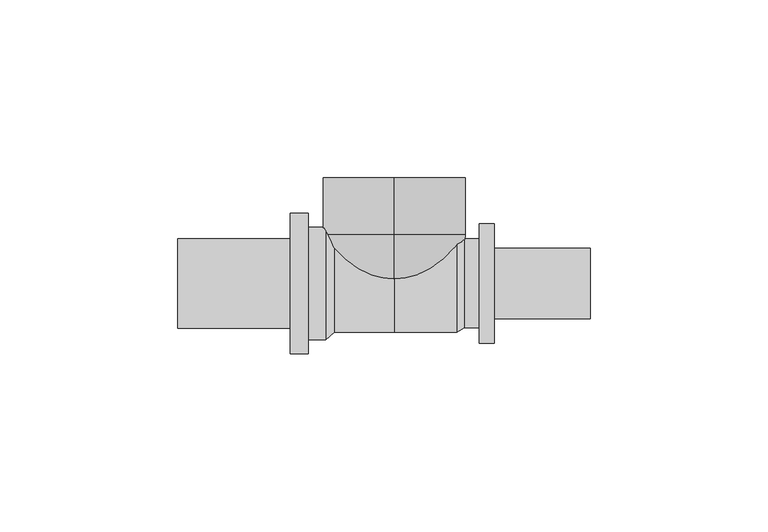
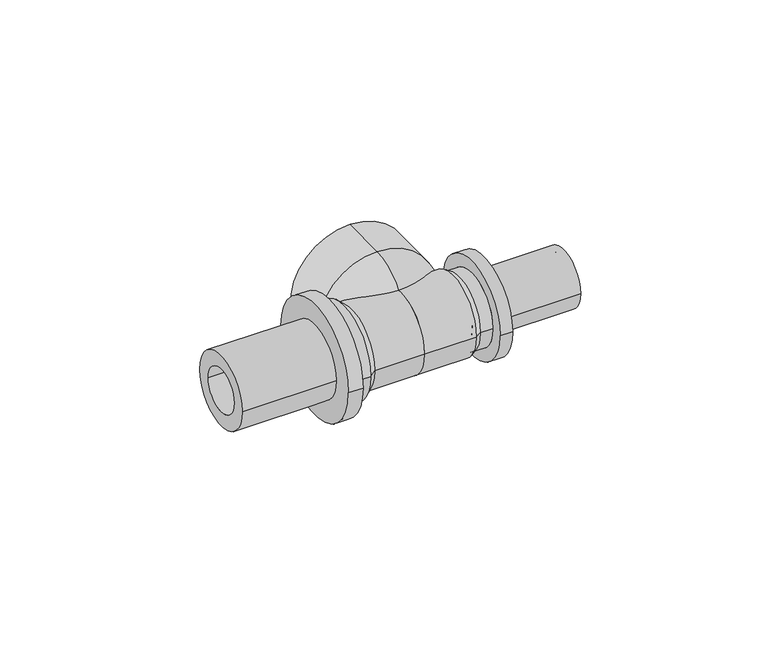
"""IFC4 building model written with IfcOpenShell, lengths in millimetres: pipe fitting geometry, REHAU_RAUTITAN_T-piece RX+, outlet with internal thread : REHAU_RAUTITAN_T-piece RX+, outlet with internal thread."""

from ifc_helpers import new_model, si_unit, point, frame, origin, place, context, project, spatial, polyline, circle_curve, ellipse_curve, trimmed, source, transform, mapped, element, save
from ifc_brep_helpers import plane_surface, cylinder_surface, revolved_surface, advanced_brep


def pipe_fitting_9d3ca083(model_context):
    return source(origin(), model_context, "Body", "AdvancedBrep", [
        advanced_brep(
        [(-29.16, 12.6, 0.0), (-29.16, -12.6, 0.0), (-60.82, -12.6, 0.0), (-60.82, 12.6, 0.0), (-24.21, 19.79, 0.0), (-24.21, -19.79, 0.0), (-29.16, -19.79, 0.0), (-29.16, 19.79, 0.0), (-19.26, 15.84, 0.0), (-19.26, -15.84, 0.0), (-24.21, -15.84, 0.0), (-24.21, 15.84, 0.0), (-16.785, 13.775, 0.0), (-16.785, -13.775, 0.0), (0.0, 13.775, 0.0), (0.0, -13.775, 0.0), (-16.785, 11.01, 0.0), (-16.785, -11.01, 0.0), (0.0, -11.01, 0.0), (0.0, 11.01, 0.0), (-19.26, 7.595, 0.0), (-19.26, -7.595, 0.0), (-60.82, 7.595, 0.0), (-60.82, -7.595, 0.0)],
        [
            (0, 1, circle_curve(frame((-29.16, 0.0, 0.0), z_axis=(-1.0, 0.0, 0.0), x_axis=(0.0, -1.0, 0.0)), 12.6)),
            (1, 2),
            (2, 3, circle_curve(frame((-60.82, 0.0, 0.0), z_axis=(1.0, 0.0, 0.0), x_axis=(0.0, -1.0, 0.0)), 12.6)),
            (3, 0),
            (4, 5, circle_curve(frame((-24.21, 0.0, 0.0), z_axis=(-1.0, 0.0, 0.0), x_axis=(0.0, -1.0, 0.0)), 19.79)),
            (5, 6),
            (6, 7, circle_curve(frame((-29.16, 0.0, 0.0), z_axis=(1.0, 0.0, 0.0), x_axis=(0.0, -1.0, 0.0)), 19.79)),
            (7, 4),
            (8, 9, circle_curve(frame((-19.26, 0.0, 0.0), z_axis=(-1.0, 0.0, 0.0), x_axis=(0.0, -1.0, 0.0)), 15.84)),
            (9, 10),
            (10, 11, circle_curve(frame((-24.21, 0.0, 0.0), z_axis=(1.0, 0.0, 0.0), x_axis=(0.0, -1.0, 0.0)), 15.84)),
            (11, 8),
            (12, 13, circle_curve(frame((-16.785, 0.0, 0.0), z_axis=(-1.0, 0.0, 0.0), x_axis=(0.0, -1.0, 0.0)), 13.775)),
            (13, 9),
            (8, 12),
            (14, 15, circle_curve(frame((0.0, 0.0, 0.0), z_axis=(-1.0, 0.0, 0.0), x_axis=(0.0, -1.0, 0.0)), 13.775)),
            (15, 13),
            (12, 14),
            (16, 17, circle_curve(frame((-16.785, 0.0, 0.0), z_axis=(-1.0, 0.0, 0.0), x_axis=(0.0, -1.0, 0.0)), 11.01)),
            (17, 18),
            (18, 19, circle_curve(frame((0.0, 0.0, 0.0), z_axis=(1.0, 0.0, 0.0), x_axis=(0.0, -1.0, 0.0)), 11.01)),
            (19, 16),
            (20, 21, circle_curve(frame((-19.26, 0.0, 0.0), z_axis=(-1.0, 0.0, 0.0), x_axis=(0.0, -1.0, 0.0)), 7.595)),
            (21, 17),
            (16, 20),
            (22, 23, circle_curve(frame((-60.82, 0.0, 0.0), z_axis=(-1.0, 0.0, 0.0), x_axis=(0.0, -1.0, 0.0)), 7.595)),
            (23, 21),
            (20, 22),
            (1, 0, circle_curve(frame((-29.16, 0.0, 0.0), z_axis=(-1.0, 0.0, 0.0), x_axis=(0.0, 1.0, 0.0)), 12.6)),
            (3, 2, circle_curve(frame((-60.82, 0.0, 0.0), z_axis=(1.0, 0.0, 0.0), x_axis=(0.0, 1.0, 0.0)), 12.6)),
            (6, 7, circle_curve(frame((-29.16, 0.0, 0.0), z_axis=(-1.0, 0.0, 0.0), x_axis=(0.0, 1.0, 0.0)), 19.79)),
            (5, 4, circle_curve(frame((-24.21, 0.0, 0.0), z_axis=(-1.0, 0.0, 0.0), x_axis=(0.0, 1.0, 0.0)), 19.79)),
            (10, 11, circle_curve(frame((-24.21, 0.0, 0.0), z_axis=(-1.0, 0.0, 0.0), x_axis=(0.0, 1.0, 0.0)), 15.84)),
            (9, 8, circle_curve(frame((-19.26, 0.0, 0.0), z_axis=(-1.0, 0.0, 0.0), x_axis=(0.0, 1.0, 0.0)), 15.84)),
            (13, 12, circle_curve(frame((-16.785, 0.0, 0.0), z_axis=(-1.0, 0.0, 0.0), x_axis=(0.0, 1.0, 0.0)), 13.775)),
            (15, 14, circle_curve(frame((0.0, 0.0, 0.0), z_axis=(-1.0, 0.0, 0.0), x_axis=(0.0, 1.0, 0.0)), 13.775)),
            (18, 19, circle_curve(frame((0.0, 0.0, 0.0), z_axis=(-1.0, 0.0, 0.0), x_axis=(0.0, 1.0, 0.0)), 11.01)),
            (17, 16, circle_curve(frame((-16.785, 0.0, 0.0), z_axis=(-1.0, 0.0, 0.0), x_axis=(0.0, 1.0, 0.0)), 11.01)),
            (21, 20, circle_curve(frame((-19.26, 0.0, 0.0), z_axis=(-1.0, 0.0, 0.0), x_axis=(0.0, 1.0, 0.0)), 7.595)),
            (23, 22, circle_curve(frame((-60.82, 0.0, 0.0), z_axis=(-1.0, 0.0, 0.0), x_axis=(0.0, 1.0, 0.0)), 7.595)),
        ],
        [
            cylinder_surface(frame((0.0, 0.0, 0.0), z_axis=(1.0, 0.0, 0.0), x_axis=(0.0, -1.0, 0.0)), 12.6),
            cylinder_surface(frame((0.0, 0.0, 0.0), z_axis=(1.0, 0.0, 0.0), x_axis=(0.0, -1.0, 0.0)), 19.79),
            cylinder_surface(frame((0.0, 0.0, 0.0), z_axis=(1.0, 0.0, 0.0), x_axis=(0.0, -1.0, 0.0)), 15.84),
            revolved_surface(polyline([(-19.26, -15.84, 0.0), (-16.785, -13.775, 0.0)]), (0.0, 0.0, 0.0), (1.0, 0.0, 0.0)),
            cylinder_surface(frame((0.0, 0.0, 0.0), z_axis=(1.0, 0.0, 0.0), x_axis=(0.0, -1.0, 0.0)), 13.775),
            revolved_surface(polyline([(0.0, -11.01, 0.0), (-16.785, -11.01, 0.0)]), (0.0, 0.0, 0.0), (1.0, 0.0, 0.0)),
            revolved_surface(polyline([(-16.785, -11.01, 0.0), (-19.26, -7.595, 0.0)]), (0.0, 0.0, 0.0), (1.0, 0.0, 0.0)),
            revolved_surface(polyline([(-19.26, -7.595, 0.0), (-60.82, -7.595, 0.0)]), (0.0, 0.0, 0.0), (1.0, 0.0, 0.0)),
            cylinder_surface(frame((0.0, 0.0, 0.0), z_axis=(1.0, 0.0, 0.0), x_axis=(0.0, 1.0, 0.0)), 12.6),
            plane_surface(frame((-29.16, 0.0, 0.0), z_axis=(-1.0, 0.0, 0.0), x_axis=(0.0, 1.0, 0.0))),
            cylinder_surface(frame((0.0, 0.0, 0.0), z_axis=(1.0, 0.0, 0.0), x_axis=(0.0, 1.0, 0.0)), 19.79),
            plane_surface(frame((-24.21, 0.0, 0.0), z_axis=(1.0, 0.0, 0.0), x_axis=(0.0, 1.0, 0.0))),
            cylinder_surface(frame((0.0, 0.0, 0.0), z_axis=(1.0, 0.0, 0.0), x_axis=(0.0, 1.0, 0.0)), 15.84),
            revolved_surface(polyline([(-19.26, 15.84, 0.0), (-16.785, 13.775, 0.0)]), (0.0, 0.0, 0.0), (1.0, 0.0, 0.0)),
            cylinder_surface(frame((0.0, 0.0, 0.0), z_axis=(1.0, 0.0, 0.0), x_axis=(0.0, 1.0, 0.0)), 13.775),
            plane_surface(frame((0.0, 0.0, 0.0), z_axis=(1.0, 0.0, 0.0), x_axis=(0.0, 1.0, 0.0))),
            revolved_surface(polyline([(0.0, 11.01, 0.0), (-16.785, 11.01, 0.0)]), (0.0, 0.0, 0.0), (1.0, 0.0, 0.0)),
            revolved_surface(polyline([(-16.785, 11.01, 0.0), (-19.26, 7.595, 0.0)]), (0.0, 0.0, 0.0), (1.0, 0.0, 0.0)),
            revolved_surface(polyline([(-19.26, 7.595, 0.0), (-60.82, 7.595, 0.0)]), (0.0, 0.0, 0.0), (1.0, 0.0, 0.0)),
            plane_surface(frame((-60.82, 0.0, 0.0), z_axis=(-1.0, 0.0, 0.0), x_axis=(0.0, 1.0, 0.0))),
        ],
        [
            (0, [[1, 2, 3, 4]]),
            (1, [[5, 6, 7, 8]]),
            (2, [[9, 10, 11, 12]]),
            (3, [[13, 14, -9, 15]]),
            (4, [[16, 17, -13, 18]]),
            (5, [[19, 20, 21, 22]]),
            (6, [[23, 24, -19, 25]]),
            (7, [[26, 27, -23, 28]]),
            (8, [[29, -4, 30, -2]]),
            (9, [[31, -7], [-29, -1]]),
            (10, [[32, -8, -31, -6]]),
            (11, [[-32, -5], [33, -11]]),
            (12, [[34, -12, -33, -10]]),
            (13, [[35, -15, -34, -14]]),
            (14, [[36, -18, -35, -17]]),
            (15, [[-36, -16], [37, -21]]),
            (16, [[38, -22, -37, -20]]),
            (17, [[39, -25, -38, -24]]),
            (18, [[40, -28, -39, -27]]),
            (19, [[-30, -3], [-40, -26]]),
        ],
    ),
        advanced_brep(
        [(19.74, 7.595, 0.0), (19.74, -7.595, 0.0), (55.14, -7.595, 0.0), (55.14, 7.595, 0.0), (17.64, 11.01, 0.0), (17.64, -11.01, 0.0), (0.0, 11.01, 0.0), (0.0, -11.01, 0.0), (17.64, 13.775, 0.0), (17.64, -13.775, 0.0), (0.0, -13.775, 0.0), (0.0, 13.775, 0.0), (19.74, 12.5, 0.0), (19.74, -12.5, 0.0), (23.94, 12.5, 0.0), (23.94, -12.5, 0.0), (28.14, 16.795, 0.0), (28.14, -16.795, 0.0), (23.94, -16.795, 0.0), (23.94, 16.795, 0.0), (55.14, 9.87, 0.0), (55.14, -9.87, 0.0), (28.14, -9.87, 0.0), (28.14, 9.87, 0.0)],
        [
            (0, 1, circle_curve(frame((19.74, 0.0, 0.0), z_axis=(-1.0, 0.0, 0.0), x_axis=(0.0, -1.0, 0.0)), 7.595)),
            (1, 2),
            (2, 3, circle_curve(frame((55.14, 0.0, 0.0), z_axis=(1.0, 0.0, 0.0), x_axis=(0.0, -1.0, 0.0)), 7.595)),
            (3, 0),
            (4, 5, circle_curve(frame((17.64, 0.0, 0.0), z_axis=(-1.0, 0.0, 0.0), x_axis=(0.0, -1.0, 0.0)), 11.01)),
            (5, 1),
            (0, 4),
            (6, 7, circle_curve(frame((0.0, 0.0, 0.0), z_axis=(-1.0, 0.0, 0.0), x_axis=(0.0, -1.0, 0.0)), 11.01)),
            (7, 5),
            (4, 6),
            (8, 9, circle_curve(frame((17.64, 0.0, 0.0), z_axis=(-1.0, 0.0, 0.0), x_axis=(0.0, -1.0, 0.0)), 13.775)),
            (9, 10),
            (10, 11, circle_curve(frame((0.0, 0.0, 0.0), z_axis=(1.0, 0.0, 0.0), x_axis=(0.0, -1.0, 0.0)), 13.775)),
            (11, 8),
            (12, 13, circle_curve(frame((19.74, 0.0, 0.0), z_axis=(-1.0, 0.0, 0.0), x_axis=(0.0, -1.0, 0.0)), 12.5)),
            (13, 9),
            (8, 12),
            (14, 15, circle_curve(frame((23.94, 0.0, 0.0), z_axis=(-1.0, 0.0, 0.0), x_axis=(0.0, -1.0, 0.0)), 12.5)),
            (15, 13),
            (12, 14),
            (16, 17, circle_curve(frame((28.14, 0.0, 0.0), z_axis=(-1.0, 0.0, 0.0), x_axis=(0.0, -1.0, 0.0)), 16.795)),
            (17, 18),
            (18, 19, circle_curve(frame((23.94, 0.0, 0.0), z_axis=(1.0, 0.0, 0.0), x_axis=(0.0, -1.0, 0.0)), 16.795)),
            (19, 16),
            (20, 21, circle_curve(frame((55.14, 0.0, 0.0), z_axis=(-1.0, 0.0, 0.0), x_axis=(0.0, -1.0, 0.0)), 9.87)),
            (21, 22),
            (22, 23, circle_curve(frame((28.14, 0.0, 0.0), z_axis=(1.0, 0.0, 0.0), x_axis=(0.0, -1.0, 0.0)), 9.87)),
            (23, 20),
            (20, 21, circle_curve(frame((55.14, 0.0, 0.0), z_axis=(1.0, 0.0, 0.0), x_axis=(0.0, 1.0, 0.0)), 9.87)),
            (2, 3, circle_curve(frame((55.14, 0.0, 0.0), z_axis=(-1.0, 0.0, 0.0), x_axis=(0.0, 1.0, 0.0)), 7.595)),
            (1, 0, circle_curve(frame((19.74, 0.0, 0.0), z_axis=(-1.0, 0.0, 0.0), x_axis=(0.0, 1.0, 0.0)), 7.595)),
            (5, 4, circle_curve(frame((17.64, 0.0, 0.0), z_axis=(-1.0, 0.0, 0.0), x_axis=(0.0, 1.0, 0.0)), 11.01)),
            (7, 6, circle_curve(frame((0.0, 0.0, 0.0), z_axis=(-1.0, 0.0, 0.0), x_axis=(0.0, 1.0, 0.0)), 11.01)),
            (10, 11, circle_curve(frame((0.0, 0.0, 0.0), z_axis=(-1.0, 0.0, 0.0), x_axis=(0.0, 1.0, 0.0)), 13.775)),
            (9, 8, circle_curve(frame((17.64, 0.0, 0.0), z_axis=(-1.0, 0.0, 0.0), x_axis=(0.0, 1.0, 0.0)), 13.775)),
            (13, 12, circle_curve(frame((19.74, 0.0, 0.0), z_axis=(-1.0, 0.0, 0.0), x_axis=(0.0, 1.0, 0.0)), 12.5)),
            (15, 14, circle_curve(frame((23.94, 0.0, 0.0), z_axis=(-1.0, 0.0, 0.0), x_axis=(0.0, 1.0, 0.0)), 12.5)),
            (18, 19, circle_curve(frame((23.94, 0.0, 0.0), z_axis=(-1.0, 0.0, 0.0), x_axis=(0.0, 1.0, 0.0)), 16.795)),
            (17, 16, circle_curve(frame((28.14, 0.0, 0.0), z_axis=(-1.0, 0.0, 0.0), x_axis=(0.0, 1.0, 0.0)), 16.795)),
            (22, 23, circle_curve(frame((28.14, 0.0, 0.0), z_axis=(-1.0, 0.0, 0.0), x_axis=(0.0, 1.0, 0.0)), 9.87)),
        ],
        [
            revolved_surface(polyline([(55.14, -7.595, 0.0), (19.74, -7.595, 0.0)]), (0.0, 0.0, 0.0), (1.0, 0.0, 0.0)),
            revolved_surface(polyline([(19.74, -7.595, 0.0), (17.64, -11.01, 0.0)]), (0.0, 0.0, 0.0), (1.0, 0.0, 0.0)),
            revolved_surface(polyline([(17.64, -11.01, 0.0), (0.0, -11.01, 0.0)]), (0.0, 0.0, 0.0), (1.0, 0.0, 0.0)),
            cylinder_surface(frame((0.0, 0.0, 0.0), z_axis=(1.0, 0.0, 0.0), x_axis=(0.0, -1.0, 0.0)), 13.775),
            revolved_surface(polyline([(17.64, -13.775, 0.0), (19.74, -12.5, 0.0)]), (0.0, 0.0, 0.0), (1.0, 0.0, 0.0)),
            cylinder_surface(frame((0.0, 0.0, 0.0), z_axis=(1.0, 0.0, 0.0), x_axis=(0.0, -1.0, 0.0)), 12.5),
            cylinder_surface(frame((0.0, 0.0, 0.0), z_axis=(1.0, 0.0, 0.0), x_axis=(0.0, -1.0, 0.0)), 16.795),
            cylinder_surface(frame((0.0, 0.0, 0.0), z_axis=(1.0, 0.0, 0.0), x_axis=(0.0, -1.0, 0.0)), 9.87),
            plane_surface(frame((55.14, 0.0, 0.0), z_axis=(1.0, 0.0, 0.0), x_axis=(0.0, 1.0, 0.0))),
            revolved_surface(polyline([(55.14, 7.595, 0.0), (19.74, 7.595, 0.0)]), (0.0, 0.0, 0.0), (1.0, 0.0, 0.0)),
            revolved_surface(polyline([(19.74, 7.595, 0.0), (17.64, 11.01, 0.0)]), (0.0, 0.0, 0.0), (1.0, 0.0, 0.0)),
            revolved_surface(polyline([(17.64, 11.01, 0.0), (0.0, 11.01, 0.0)]), (0.0, 0.0, 0.0), (1.0, 0.0, 0.0)),
            plane_surface(frame((0.0, 0.0, 0.0), z_axis=(-1.0, 0.0, 0.0), x_axis=(0.0, 1.0, 0.0))),
            cylinder_surface(frame((0.0, 0.0, 0.0), z_axis=(1.0, 0.0, 0.0), x_axis=(0.0, 1.0, 0.0)), 13.775),
            revolved_surface(polyline([(17.64, 13.775, 0.0), (19.74, 12.5, 0.0)]), (0.0, 0.0, 0.0), (1.0, 0.0, 0.0)),
            cylinder_surface(frame((0.0, 0.0, 0.0), z_axis=(1.0, 0.0, 0.0), x_axis=(0.0, 1.0, 0.0)), 12.5),
            plane_surface(frame((23.94, 0.0, 0.0), z_axis=(-1.0, 0.0, 0.0), x_axis=(0.0, 1.0, 0.0))),
            cylinder_surface(frame((0.0, 0.0, 0.0), z_axis=(1.0, 0.0, 0.0), x_axis=(0.0, 1.0, 0.0)), 16.795),
            plane_surface(frame((28.14, 0.0, 0.0), z_axis=(1.0, 0.0, 0.0), x_axis=(0.0, 1.0, 0.0))),
            cylinder_surface(frame((0.0, 0.0, 0.0), z_axis=(1.0, 0.0, 0.0), x_axis=(0.0, 1.0, 0.0)), 9.87),
        ],
        [
            (0, [[1, 2, 3, 4]]),
            (1, [[5, 6, -1, 7]]),
            (2, [[8, 9, -5, 10]]),
            (3, [[11, 12, 13, 14]]),
            (4, [[15, 16, -11, 17]]),
            (5, [[18, 19, -15, 20]]),
            (6, [[21, 22, 23, 24]]),
            (7, [[25, 26, 27, 28]]),
            (8, [[29, -25], [30, -3]]),
            (9, [[31, -4, -30, -2]]),
            (10, [[32, -7, -31, -6]]),
            (11, [[33, -10, -32, -9]]),
            (12, [[34, -13], [-33, -8]]),
            (13, [[35, -14, -34, -12]]),
            (14, [[36, -17, -35, -16]]),
            (15, [[37, -20, -36, -19]]),
            (16, [[38, -23], [-37, -18]]),
            (17, [[39, -24, -38, -22]]),
            (18, [[-39, -21], [40, -27]]),
            (19, [[-29, -28, -40, -26]]),
        ],
    ),
        advanced_brep(
        [(0.0, -2.3672221, 4.52), (0.0, -2.3672221, -4.52), (0.0, 13.7, -20.095), (0.0, 13.7, 20.095), (0.0, 1.6553736, 4.52), (0.0, 1.6553736, -4.52), (0.0, 13.7, 16.075), (0.0, 13.7, -16.075), (0.0, 29.7, 16.075), (0.0, 29.7, -16.075), (0.0, 29.7, -20.095), (0.0, 29.7, 20.095)],
        [
            (0, 1, circle_curve(frame((0.0, -2.3672221, 0.0), z_axis=(0.0, 1.0, 0.0), x_axis=(0.0, 0.0, -1.0)), 4.52)),
            (1, 2, circle_curve(frame((0.0, 13.7, -4.02), z_axis=(1.0, 0.0, 0.0), x_axis=(0.0, 1.0, 0.0)), 16.075)),
            (2, 3, circle_curve(frame((0.0, 13.7, 0.0), z_axis=(0.0, -1.0, 0.0), x_axis=(0.0, 0.0, -1.0)), 20.095)),
            (3, 0, circle_curve(frame((0.0, 13.7, 4.02), z_axis=(1.0, 0.0, 0.0), x_axis=(0.0, 1.0, 0.0)), 16.075)),
            (4, 5, circle_curve(frame((0.0, 1.6553736, 0.0), z_axis=(0.0, 1.0, 0.0), x_axis=(0.0, 0.0, -1.0)), 4.52)),
            (5, 1),
            (0, 4),
            (6, 7, circle_curve(frame((0.0, 13.7, 0.0), z_axis=(0.0, 1.0, 0.0), x_axis=(0.0, 0.0, -1.0)), 16.075)),
            (7, 5, circle_curve(frame((0.0, 13.7, -4.02), z_axis=(-1.0, 0.0, 0.0), x_axis=(0.0, 1.0, 0.0)), 12.055)),
            (4, 6, circle_curve(frame((0.0, 13.7, 4.02), z_axis=(-1.0, 0.0, 0.0), x_axis=(0.0, 1.0, 0.0)), 12.055)),
            (8, 9, circle_curve(frame((0.0, 29.7, 0.0), z_axis=(0.0, 1.0, 0.0), x_axis=(0.0, 0.0, -1.0)), 16.075)),
            (9, 7),
            (6, 8),
            (2, 10),
            (10, 11, circle_curve(frame((0.0, 29.7, 0.0), z_axis=(0.0, -1.0, 0.0), x_axis=(0.0, 0.0, -1.0)), 20.095)),
            (11, 3),
            (1, 0, circle_curve(frame((0.0, -2.3672221, 0.0), z_axis=(0.0, 1.0, 0.0), x_axis=(0.0, 0.0, 1.0)), 4.52)),
            (3, 2, circle_curve(frame((0.0, 13.7, 0.0), z_axis=(0.0, -1.0, 0.0), x_axis=(0.0, 0.0, 1.0)), 20.095)),
            (5, 4, circle_curve(frame((0.0, 1.6553736, 0.0), z_axis=(0.0, 1.0, 0.0), x_axis=(0.0, 0.0, 1.0)), 4.52)),
            (7, 6, circle_curve(frame((0.0, 13.7, 0.0), z_axis=(0.0, 1.0, 0.0), x_axis=(0.0, 0.0, 1.0)), 16.075)),
            (9, 8, circle_curve(frame((0.0, 29.7, 0.0), z_axis=(0.0, 1.0, 0.0), x_axis=(0.0, 0.0, 1.0)), 16.075)),
            (10, 11, circle_curve(frame((0.0, 29.7, 0.0), z_axis=(0.0, 1.0, 0.0), x_axis=(0.0, 0.0, 1.0)), 20.095)),
        ],
        [
            revolved_surface(trimmed(ellipse_curve(frame((0.0, 13.7, -4.02), z_axis=(-1.0, 0.0, 0.0), x_axis=(0.0, 1.0, 0.0)), 16.075, 16.075), [point((0.0, 13.7, -20.095))], [point((0.0, -2.3672221, -4.52))], True, "CARTESIAN"), (0.0, 0.0, 0.0), (0.0, -1.0, 0.0)),
            revolved_surface(polyline([(0.0, -2.3672221, -4.52), (0.0, 1.6553736, -4.52)]), (0.0, 0.0, 0.0), (0.0, -1.0, 0.0)),
            revolved_surface(trimmed(ellipse_curve(frame((0.0, 13.7, -4.02), z_axis=(1.0, 0.0, 0.0), x_axis=(0.0, 1.0, 0.0)), 12.055, 12.055), [point((0.0, 1.6553736, -4.52))], [point((0.0, 13.7, -16.075))], True, "CARTESIAN"), (0.0, 0.0, 0.0), (0.0, -1.0, 0.0)),
            revolved_surface(polyline([(0.0, 13.7, -16.075), (0.0, 29.7, -16.075)]), (0.0, 0.0, 0.0), (0.0, -1.0, 0.0)),
            cylinder_surface(frame((0.0, 0.0, 0.0), z_axis=(0.0, -1.0, 0.0), x_axis=(0.0, 0.0, -1.0)), 20.095),
            revolved_surface(trimmed(ellipse_curve(frame((0.0, 13.7, 4.02), z_axis=(1.0, 0.0, 0.0), x_axis=(0.0, 1.0, 0.0)), 16.075, 16.075), [point((0.0, 13.7, 20.095))], [point((0.0, -2.3672221, 4.52))], True, "CARTESIAN"), (0.0, 0.0, 0.0), (0.0, -1.0, 0.0)),
            revolved_surface(polyline([(0.0, -2.3672221, 4.52), (0.0, 1.6553736, 4.52)]), (0.0, 0.0, 0.0), (0.0, -1.0, 0.0)),
            revolved_surface(trimmed(ellipse_curve(frame((0.0, 13.7, 4.02), z_axis=(-1.0, 0.0, 0.0), x_axis=(0.0, 1.0, 0.0)), 12.055, 12.055), [point((0.0, 1.6553736, 4.52))], [point((0.0, 13.7, 16.075))], True, "CARTESIAN"), (0.0, 0.0, 0.0), (0.0, -1.0, 0.0)),
            revolved_surface(polyline([(0.0, 13.7, 16.075), (0.0, 29.7, 16.075)]), (0.0, 0.0, 0.0), (0.0, -1.0, 0.0)),
            plane_surface(frame((0.0, 29.7, 0.0), z_axis=(0.0, 1.0, 0.0), x_axis=(0.0, 0.0, 1.0))),
            cylinder_surface(frame((0.0, 0.0, 0.0), z_axis=(0.0, -1.0, 0.0), x_axis=(0.0, 0.0, 1.0)), 20.095),
        ],
        [
            (0, [[1, 2, 3, 4]]),
            (1, [[5, 6, -1, 7]]),
            (2, [[8, 9, -5, 10]]),
            (3, [[11, 12, -8, 13]]),
            (4, [[-3, 14, 15, 16]]),
            (5, [[17, -4, 18, -2]]),
            (6, [[19, -7, -17, -6]]),
            (7, [[20, -10, -19, -9]]),
            (8, [[21, -13, -20, -12]]),
            (9, [[22, -15], [-21, -11]]),
            (10, [[-18, -16, -22, -14]]),
        ],
    ),
    ])


if __name__ == "__main__":
    model = new_model("IFC4")
    model_context = context("Model", 3, world=origin())
    ifc_project = project(units=[si_unit("LENGTHUNIT", "METRE", prefix="MILLI")], contexts=[model_context])
    site = spatial("IfcSite", under=ifc_project)
    building = spatial("IfcBuilding", under=site)
    placement = place(None, origin())
    pipe_fitting_shape = pipe_fitting_9d3ca083(model_context)
    element("IfcPipeFitting", 1, ObjectType="REHAU_RAUTITAN_T-piece RX+, outlet with internal thread : REHAU_RAUTITAN_T-piece RX+, outlet with internal thread", at=placement, inside=building, context=model_context, shape_type="MappedRepresentation", body=[
        mapped(pipe_fitting_shape, transform((0.0, 0.0, 0.0), x_axis=(1.0, 0.0, 0.0), y_axis=(0.0, 1.0, 0.0), z_axis=(0.0, 0.0, 1.0))),
    ])
    save(model, "model.ifc")
